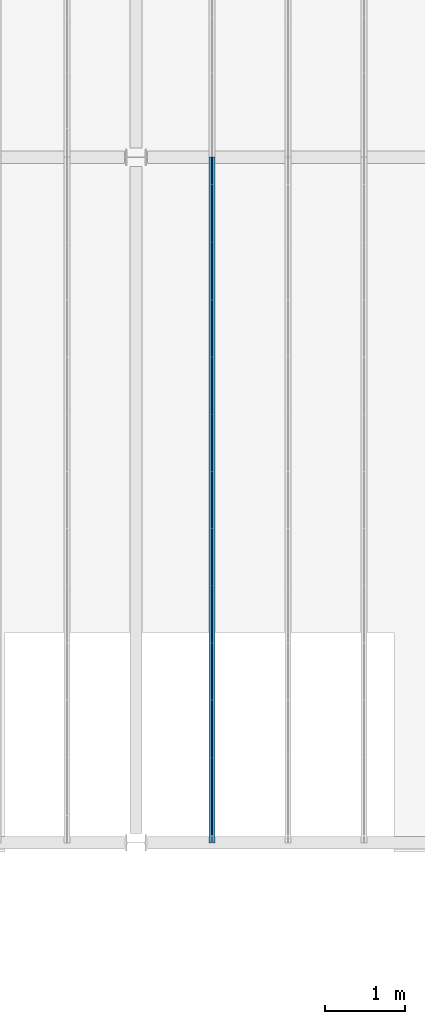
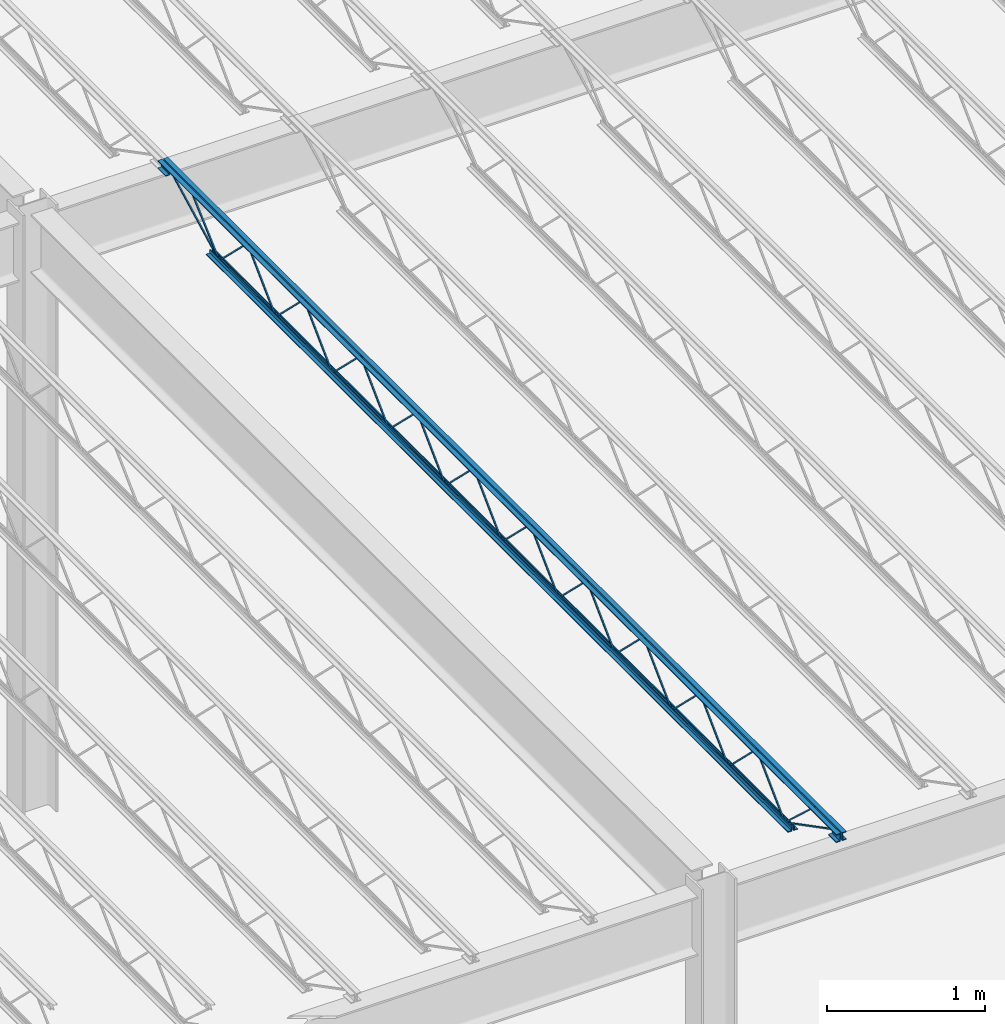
# One storey, part 57 of 119: 1 beam.
"""IFC2X3 building model written with IfcOpenShell, lengths in metres."""

from ifc_helpers import new_model, entity, si_unit, converted_unit, frame, origin, place, context, project, spatial, face_set, surface_model, element, save


model = new_model("IFC2X3")

# Units and contexts
model_context = context("Model", 3, precision=1e-09, world=origin())
plan_context = context("Plan", 3, precision=1e-09, world=origin())
ifc_project = project(units=[si_unit("LENGTHUNIT", "METRE"), si_unit("AREAUNIT", "SQUARE_METRE"), si_unit("VOLUMEUNIT", "CUBIC_METRE"), converted_unit("PLANEANGLEUNIT", "DEGREE", entity("IfcRatioMeasure", 0.01745329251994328), si_unit("PLANEANGLEUNIT", "RADIAN"), dimensions=[0, 0, 0, 0, 0, 0, 0]), si_unit("TIMEUNIT", "SECOND")], contexts=[model_context, plan_context])

# Site, building, storey
site_placement = place(None, origin())
site = spatial("IfcSite", under=ifc_project, at=site_placement, Name="Default", CompositionType="ELEMENT")
building_placement = place(site_placement, origin())
building = spatial("IfcBuilding", under=site, at=building_placement, CompositionType="ELEMENT")
storey_placement = place(building_placement, frame((0.0, 0.0, 4.570000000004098)))
storey = spatial("IfcBuildingStorey", under=building, at=storey_placement, Name="Second Floor", CompositionType="ELEMENT", Elevation=4.570000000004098)

# Beam
beam_placement = place(storey_placement, frame((-13.96672812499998, 10.03999999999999, 4.323999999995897), z_axis=(0.0, 0.0, 1.0), x_axis=(-1.0, 0.0, 0.0)))
element("IfcBeam", 1, at=beam_placement, inside=storey, Name="M_K-Series Bar Joist-Rod Web:14K1:14K1", ObjectType="M_K-Series Bar Joist-Rod Web:14K1", context=model_context, shape_type="SurfaceModel", body=[
    surface_model("IfcFaceBasedSurfaceModel", [(-0.03200000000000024, -2.141200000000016, 0.01110000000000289), (-0.04149999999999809, -2.141200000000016, 0.01110000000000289), (-0.04149999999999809, -2.141200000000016, 0.001600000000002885), (-0.03200000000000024, -2.141200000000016, 0.001600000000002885), (-0.04150000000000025, -2.139961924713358, 0.01110000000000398), (-0.03200000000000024, -2.139961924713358, 0.01110000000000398), (-0.04149999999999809, -2.136088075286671, 0.001600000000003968), (-0.04149999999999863, -1.785138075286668, 0.3449000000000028), (-0.04149999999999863, -1.782661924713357, 0.3449000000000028), (-0.04149999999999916, -1.431711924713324, 0.001600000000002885), (-0.04149999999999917, -1.426600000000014, 0.001600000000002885), (-0.04149999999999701, -1.426600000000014, 0.01110000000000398), (-0.04149999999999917, -1.427838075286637, 0.01110000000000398), (-0.04149999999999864, -1.778788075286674, 0.3544000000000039), (-0.04149999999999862, -1.78901192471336, 0.3544000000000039), (-0.03199999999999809, -2.136088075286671, 0.001600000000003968), (-0.03200000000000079, -1.785138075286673, 0.3449000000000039), (-0.03200000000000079, -1.782661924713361, 0.3449000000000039), (-0.03200000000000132, -1.431711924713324, 0.001600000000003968), (-0.03200000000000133, -1.426600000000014, 0.001600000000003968), (-0.03200000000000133, -1.426600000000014, 0.01110000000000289), (-0.03200000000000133, -1.427838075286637, 0.01110000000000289), (-0.03200000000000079, -1.77878807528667, 0.3544000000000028), (-0.03200000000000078, -1.78901192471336, 0.3544000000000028), (-0.03200000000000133, -2.855800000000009, 0.01110000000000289), (-0.04149999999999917, -2.855800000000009, 0.01110000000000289), (-0.04149999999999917, -2.855800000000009, 0.001600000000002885), (-0.03200000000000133, -2.855800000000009, 0.001600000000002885), (-0.04150000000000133, -2.854561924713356, 0.01110000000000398), (-0.03200000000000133, -2.854561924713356, 0.01110000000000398), (-0.04149999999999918, -2.850688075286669, 0.001600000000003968), (-0.04149999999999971, -2.499738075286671, 0.3449000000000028), (-0.04149999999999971, -2.497261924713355, 0.3449000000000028), (-0.04150000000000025, -2.146311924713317, 0.001600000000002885), (-0.04149999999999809, -2.141200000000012, 0.001600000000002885), (-0.04149999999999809, -2.141200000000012, 0.01110000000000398), (-0.04150000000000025, -2.14243807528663, 0.01110000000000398), (-0.04149999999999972, -2.493388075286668, 0.3544000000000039), (-0.0414999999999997, -2.503611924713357, 0.3544000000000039), (-0.03199999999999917, -2.850688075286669, 0.001600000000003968), (-0.03200000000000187, -2.499738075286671, 0.3449000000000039), (-0.03200000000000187, -2.497261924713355, 0.3449000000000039), (-0.0320000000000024, -2.146311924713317, 0.001600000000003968), (-0.03200000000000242, -2.141200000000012, 0.001600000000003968), (-0.03200000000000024, -2.141200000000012, 0.01110000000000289), (-0.03200000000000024, -2.14243807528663, 0.01110000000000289), (-0.03200000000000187, -2.493388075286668, 0.3544000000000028), (-0.03200000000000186, -2.503611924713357, 0.3544000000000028), (-0.03200000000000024, -3.570400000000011, 0.01110000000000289), (-0.04149999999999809, -3.570400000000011, 0.01110000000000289), (-0.04149999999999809, -3.570400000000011, 0.001600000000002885), (-0.03200000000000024, -3.570400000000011, 0.001600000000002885), (-0.04150000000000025, -3.569161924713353, 0.01110000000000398), (-0.03200000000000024, -3.569161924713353, 0.01110000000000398), (-0.04149999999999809, -3.565288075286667, 0.001600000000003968), (-0.04149999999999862, -3.214338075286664, 0.3449000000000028), (-0.04149999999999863, -3.211861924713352, 0.3449000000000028), (-0.04149999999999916, -2.860911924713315, 0.001600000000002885), (-0.04149999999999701, -2.855800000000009, 0.01110000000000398), (-0.04149999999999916, -2.857038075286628, 0.01110000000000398), (-0.04149999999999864, -3.207988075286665, 0.3544000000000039), (-0.04149999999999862, -3.218211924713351, 0.3544000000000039), (-0.03199999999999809, -3.565288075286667, 0.001600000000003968), (-0.03200000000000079, -3.214338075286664, 0.3449000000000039), (-0.03200000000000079, -3.211861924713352, 0.3449000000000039), (-0.03200000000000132, -2.860911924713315, 0.001600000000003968), (-0.03200000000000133, -2.855800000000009, 0.001600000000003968), (-0.03200000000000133, -2.857038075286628, 0.01110000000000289), (-0.03200000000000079, -3.207988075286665, 0.3544000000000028), (-0.03200000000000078, -3.218211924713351, 0.3544000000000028), (-0.03200000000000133, -4.285000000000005, 0.01110000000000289), (-0.04149999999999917, -4.285000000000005, 0.01110000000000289), (-0.04149999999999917, -4.285000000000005, 0.001600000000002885), (-0.03200000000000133, -4.285000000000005, 0.001600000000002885), (-0.04150000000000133, -4.283761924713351, 0.01110000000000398), (-0.03200000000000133, -4.283761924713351, 0.01110000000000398), (-0.04149999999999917, -4.27988807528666, 0.001600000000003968), (-0.0414999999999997, -3.928938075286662, 0.3449000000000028), (-0.04149999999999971, -3.92646192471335, 0.3449000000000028), (-0.04150000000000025, -3.575511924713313, 0.001600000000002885), (-0.04149999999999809, -3.570400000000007, 0.001600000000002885), (-0.04149999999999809, -3.570400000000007, 0.01110000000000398), (-0.04150000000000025, -3.571638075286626, 0.01110000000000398), (-0.04149999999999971, -3.922588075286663, 0.3544000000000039), (-0.0414999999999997, -3.932811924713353, 0.3544000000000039), (-0.03199999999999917, -4.279888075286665, 0.001600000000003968), (-0.03200000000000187, -3.928938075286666, 0.3449000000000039), (-0.03200000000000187, -3.92646192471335, 0.3449000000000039), (-0.0320000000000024, -3.575511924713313, 0.001600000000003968), (-0.03200000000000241, -3.570400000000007, 0.001600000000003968), (-0.03200000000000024, -3.570400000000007, 0.01110000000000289), (-0.03200000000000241, -3.571638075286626, 0.01110000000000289), (-0.03200000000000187, -3.922588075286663, 0.3544000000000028), (-0.03200000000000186, -3.932811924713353, 0.3544000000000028), (-0.03200000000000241, -4.999600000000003, 0.01110000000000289), (-0.04150000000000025, -4.999600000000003, 0.01110000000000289), (-0.04150000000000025, -4.999600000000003, 0.001600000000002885), (-0.03200000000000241, -4.999600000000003, 0.001600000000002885), (-0.04150000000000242, -4.998361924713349, 0.01110000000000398), (-0.03200000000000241, -4.998361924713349, 0.01110000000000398), (-0.04149999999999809, -4.994488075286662, 0.001600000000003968), (-0.04149999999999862, -4.643538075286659, 0.3449000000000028), (-0.04149999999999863, -4.641061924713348, 0.3449000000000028), (-0.04149999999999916, -4.290111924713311, 0.001600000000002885), (-0.04149999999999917, -4.285000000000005, 0.01110000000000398), (-0.04150000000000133, -4.28623807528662, 0.01110000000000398), (-0.04150000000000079, -4.637188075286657, 0.3544000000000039), (-0.04150000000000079, -4.647411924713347, 0.3544000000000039), (-0.03200000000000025, -4.994488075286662, 0.001600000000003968), (-0.03200000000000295, -4.643538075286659, 0.3449000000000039), (-0.03200000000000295, -4.641061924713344, 0.3449000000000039), (-0.03200000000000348, -4.290111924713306, 0.001600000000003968), (-0.03200000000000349, -4.285000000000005, 0.001600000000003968), (-0.03200000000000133, -4.286238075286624, 0.01110000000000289), (-0.03200000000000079, -4.637188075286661, 0.3544000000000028), (-0.03200000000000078, -4.647411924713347, 0.3544000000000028), (-0.03200000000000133, -5.714200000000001, 0.01110000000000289), (-0.04149999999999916, -5.714200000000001, 0.01110000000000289), (-0.04149999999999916, -5.714200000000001, 0.001600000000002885), (-0.03200000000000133, -5.714200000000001, 0.001600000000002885), (-0.04150000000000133, -5.712961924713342, 0.01110000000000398), (-0.03200000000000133, -5.712961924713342, 0.01110000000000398), (-0.04149999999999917, -5.709088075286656, 0.001600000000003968), (-0.0414999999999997, -5.358138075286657, 0.3449000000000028), (-0.04149999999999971, -5.355661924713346, 0.3449000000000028), (-0.04150000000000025, -5.004711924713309, 0.001600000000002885), (-0.04149999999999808, -4.999599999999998, 0.01110000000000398), (-0.04150000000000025, -5.000838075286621, 0.01110000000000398), (-0.04149999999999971, -5.351788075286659, 0.3544000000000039), (-0.0414999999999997, -5.362011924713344, 0.3544000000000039), (-0.03199999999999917, -5.709088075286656, 0.001600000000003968), (-0.03200000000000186, -5.358138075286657, 0.3449000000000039), (-0.03200000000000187, -5.355661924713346, 0.3449000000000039), (-0.0320000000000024, -5.004711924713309, 0.001600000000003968), (-0.03200000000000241, -4.999599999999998, 0.001600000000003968), (-0.0320000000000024, -5.000838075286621, 0.01110000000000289), (-0.03200000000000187, -5.351788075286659, 0.3544000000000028), (-0.03200000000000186, -5.362011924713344, 0.3544000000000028), (-0.03200000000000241, -6.428799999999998, 0.01110000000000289), (-0.04150000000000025, -6.428799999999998, 0.01110000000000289), (-0.04150000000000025, -6.428799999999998, 0.001600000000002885), (-0.03200000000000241, -6.428799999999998, 0.001600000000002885), (-0.04150000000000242, -6.427561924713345, 0.01110000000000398), (-0.03200000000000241, -6.427561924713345, 0.01110000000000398), (-0.04149999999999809, -6.423688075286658, 0.001600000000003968), (-0.04149999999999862, -6.072738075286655, 0.3449000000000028), (-0.04149999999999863, -6.070261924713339, 0.3449000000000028), (-0.04149999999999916, -5.719311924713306, 0.001600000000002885), (-0.04149999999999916, -5.714200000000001, 0.01110000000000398), (-0.04150000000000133, -5.715438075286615, 0.01110000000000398), (-0.04150000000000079, -6.066388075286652, 0.3544000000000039), (-0.04150000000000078, -6.076611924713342, 0.3544000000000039), (-0.03200000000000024, -6.423688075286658, 0.001600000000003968), (-0.03200000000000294, -6.072738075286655, 0.3449000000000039), (-0.03200000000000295, -6.070261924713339, 0.3449000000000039), (-0.03200000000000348, -5.719311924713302, 0.001600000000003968), (-0.03200000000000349, -5.714200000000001, 0.001600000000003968), (-0.03200000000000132, -5.715438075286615, 0.01110000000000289), (-0.03200000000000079, -6.066388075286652, 0.3544000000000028), (-0.03200000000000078, -6.076611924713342, 0.3544000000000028), (-0.03200000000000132, -7.143399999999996, 0.01110000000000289), (-0.04149999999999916, -7.143399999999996, 0.01110000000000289), (-0.04149999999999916, -7.143399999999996, 0.001600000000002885), (-0.03200000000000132, -7.143399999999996, 0.001600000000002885), (-0.04150000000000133, -7.142161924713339, 0.01110000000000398), (-0.03200000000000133, -7.142161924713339, 0.01110000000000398), (-0.04149999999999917, -7.138288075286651, 0.001600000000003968), (-0.0414999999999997, -6.787338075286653, 0.3449000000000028), (-0.0414999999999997, -6.784861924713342, 0.3449000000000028), (-0.04150000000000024, -6.433911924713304, 0.001600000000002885), (-0.04150000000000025, -6.428799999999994, 0.001600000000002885), (-0.04149999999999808, -6.428799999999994, 0.01110000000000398), (-0.04150000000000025, -6.430038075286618, 0.01110000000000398), (-0.04149999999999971, -6.780988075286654, 0.3544000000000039), (-0.0414999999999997, -6.79121192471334, 0.3544000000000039), (-0.03199999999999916, -7.138288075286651, 0.001600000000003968), (-0.03200000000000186, -6.787338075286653, 0.3449000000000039), (-0.03200000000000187, -6.784861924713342, 0.3449000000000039), (-0.0320000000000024, -6.433911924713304, 0.001600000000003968), (-0.03200000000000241, -6.428799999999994, 0.001600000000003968), (-0.03200000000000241, -6.428799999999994, 0.01110000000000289), (-0.0320000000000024, -6.430038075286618, 0.01110000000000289), (-0.03200000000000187, -6.780988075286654, 0.3544000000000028), (-0.03200000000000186, -6.79121192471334, 0.3544000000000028), (-0.03199999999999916, -1.426600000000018, 0.01109999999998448), (-0.04149999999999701, -1.426600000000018, 0.01109999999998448), (-0.04149999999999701, -1.426600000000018, 0.001599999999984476), (-0.03199999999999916, -1.426600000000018, 0.001599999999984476), (-0.04149999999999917, -1.425361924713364, 0.01109999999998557), (-0.03199999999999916, -1.425361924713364, 0.01109999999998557), (-0.04149999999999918, -1.421488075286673, 0.001599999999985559), (-0.04149999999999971, -1.070538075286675, 0.3448999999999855), (-0.04149999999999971, -1.068061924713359, 0.3448999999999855), (-0.04150000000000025, -0.7171119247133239, 0.001599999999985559), (-0.04149999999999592, -0.712000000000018, 0.001599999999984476), (-0.04149999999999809, -0.712000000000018, 0.01109999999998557), (-0.04150000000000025, -0.7132380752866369, 0.01109999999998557), (-0.04149999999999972, -1.064188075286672, 0.3543999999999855), (-0.0414999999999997, -1.074411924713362, 0.3543999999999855), (-0.03199999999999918, -1.421488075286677, 0.001599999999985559), (-0.0319999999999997, -1.070538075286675, 0.3448999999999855), (-0.0319999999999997, -1.068061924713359, 0.3448999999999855), (-0.03200000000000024, -0.7171119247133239, 0.001599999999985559), (-0.03200000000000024, -0.712000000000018, 0.001599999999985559), (-0.03199999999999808, -0.712000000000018, 0.01109999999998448), (-0.03199999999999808, -0.7132380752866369, 0.01109999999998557), (-0.03199999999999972, -1.064188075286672, 0.3543999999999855), (-0.0319999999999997, -1.074411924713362, 0.3543999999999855), (-0.0320000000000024, -7.857999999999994, 0.01110000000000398), (-0.04150000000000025, -7.857999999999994, 0.01110000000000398), (-0.04150000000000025, -7.857999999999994, 0.001600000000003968), (-0.0320000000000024, -7.857999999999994, 0.001600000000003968), (-0.04150000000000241, -7.85676192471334, 0.01110000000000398), (-0.03200000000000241, -7.85676192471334, 0.01110000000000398), (-0.04149999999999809, -7.852888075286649, 0.001600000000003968), (-0.04149999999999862, -7.501938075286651, 0.3449000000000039), (-0.04149999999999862, -7.499461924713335, 0.3449000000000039), (-0.04149999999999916, -7.148511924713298, 0.001600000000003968), (-0.04149999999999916, -7.143399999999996, 0.001600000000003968), (-0.04149999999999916, -7.143399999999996, 0.01110000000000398), (-0.04150000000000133, -7.14463807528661, 0.01110000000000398), (-0.04150000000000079, -7.495588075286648, 0.3544000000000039), (-0.04150000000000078, -7.505811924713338, 0.3544000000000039), (-0.03200000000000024, -7.852888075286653, 0.001600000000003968), (-0.03200000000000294, -7.501938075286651, 0.3449000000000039), (-0.03200000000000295, -7.499461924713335, 0.3449000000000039), (-0.03200000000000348, -7.148511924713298, 0.001600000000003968), (-0.03200000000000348, -7.143399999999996, 0.001600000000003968), (-0.03200000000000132, -7.143399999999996, 0.01110000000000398), (-0.03200000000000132, -7.14463807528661, 0.01110000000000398), (-0.03200000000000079, -7.495588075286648, 0.3544000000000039), (-0.03200000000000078, -7.505811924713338, 0.3544000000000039), (-0.04150000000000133, 0.0, 0.3559999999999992), (-0.07350000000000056, 0.0, 0.3559999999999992), (-0.07350000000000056, 0.0, 0.3494999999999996), (-0.04800000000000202, 0.0, 0.3494999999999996), (-0.04800000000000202, 0.0, 0.3239999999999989), (-0.04150000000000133, 0.0, 0.3239999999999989), (-0.03200000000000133, 0.0, 0.3559999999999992), (-0.03200000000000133, 0.0, 0.3239999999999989), (-0.02550000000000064, 0.0, 0.3239999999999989), (-0.02550000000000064, 0.0, 0.3494999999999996), (0.0, 0.0, 0.3494999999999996), (0.0, 0.0, 0.3559999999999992), (-0.04150000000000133, -8.569999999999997, 0.3559999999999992), (-0.07350000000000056, -8.569999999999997, 0.3559999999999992), (-0.07350000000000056, -8.569999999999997, 0.3494999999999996), (-0.04800000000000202, -8.569999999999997, 0.3494999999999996), (-0.04800000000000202, -8.569999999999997, 0.3239999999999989), (-0.04150000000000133, -8.569999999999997, 0.3239999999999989), (-0.03200000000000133, -8.569999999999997, 0.3559999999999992), (-0.03200000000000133, -8.569999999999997, 0.3239999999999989), (-0.02550000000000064, -8.569999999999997, 0.3239999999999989), (-0.02550000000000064, -8.569999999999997, 0.3494999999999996), (0.0, -8.569999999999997, 0.3494999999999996), (0.0, -8.569999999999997, 0.3559999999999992), (-0.03200000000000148, -8.470000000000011, 0.2924999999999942), (0.0, -8.470000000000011, 0.2924999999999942), (0.0, -8.470000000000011, 0.2989999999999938), (-0.02550000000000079, -8.470000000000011, 0.2989999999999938), (-0.02550000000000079, -8.470000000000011, 0.3239999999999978), (-0.03200000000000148, -8.470000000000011, 0.3239999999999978), (-0.0735000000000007, -8.470000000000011, 0.2924999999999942), (-0.04150000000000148, -8.470000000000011, 0.2924999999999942), (-0.04150000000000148, -8.470000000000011, 0.3239999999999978), (-0.04800000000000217, -8.470000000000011, 0.3239999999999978), (-0.04800000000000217, -8.470000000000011, 0.2989999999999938), (-0.0735000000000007, -8.470000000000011, 0.2989999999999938), (-0.03200000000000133, -8.569999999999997, 0.2924999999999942), (0.0, -8.569999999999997, 0.2924999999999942), (0.0, -8.569999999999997, 0.2989999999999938), (-0.02550000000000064, -8.569999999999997, 0.2989999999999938), (-0.02550000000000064, -8.569999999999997, 0.3239999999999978), (-0.03200000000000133, -8.569999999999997, 0.3239999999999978), (-0.07350000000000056, -8.569999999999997, 0.2924999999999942), (-0.04150000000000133, -8.569999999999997, 0.2924999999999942), (-0.04150000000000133, -8.569999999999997, 0.3239999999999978), (-0.04800000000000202, -8.569999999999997, 0.3239999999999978), (-0.04800000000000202, -8.569999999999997, 0.2989999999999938), (-0.07350000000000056, -8.569999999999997, 0.2989999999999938), (-0.04150000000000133, 0.0, 0.2924999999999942), (-0.04150000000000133, 0.0, 0.3239999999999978), (-0.04799999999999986, 0.0, 0.3239999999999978), (-0.04799999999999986, 0.0, 0.2989999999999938), (-0.07350000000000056, 0.0, 0.2989999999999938), (-0.07350000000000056, 0.0, 0.2924999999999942), (-0.03200000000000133, 0.0, 0.2924999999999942), (0.0, 0.0, 0.2924999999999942), (0.0, 0.0, 0.2989999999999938), (-0.02550000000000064, 0.0, 0.2989999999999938), (-0.02550000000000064, 0.0, 0.3239999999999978), (-0.03200000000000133, 0.0, 0.3239999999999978), (-0.04150000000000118, -0.09999999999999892, 0.2924999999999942), (-0.04150000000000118, -0.09999999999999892, 0.3239999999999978), (-0.0479999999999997, -0.09999999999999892, 0.3239999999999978), (-0.0479999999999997, -0.09999999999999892, 0.2989999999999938), (-0.07350000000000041, -0.09999999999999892, 0.2989999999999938), (-0.07350000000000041, -0.09999999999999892, 0.2924999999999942), (-0.03200000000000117, -0.09999999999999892, 0.2924999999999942), (0.0, -0.09999999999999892, 0.2924999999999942), (0.0, -0.09999999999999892, 0.2989999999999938), (-0.02550000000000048, -0.09999999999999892, 0.2989999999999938), (-0.02550000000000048, -0.09999999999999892, 0.3239999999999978), (-0.03200000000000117, -0.09999999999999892, 0.3239999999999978), (-0.04150000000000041, -0.6119999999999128, 0.0), (-0.04150000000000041, -0.6119999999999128, 0.03199999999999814), (-0.04800000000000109, -0.6119999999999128, 0.03199999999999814), (-0.04800000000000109, -0.6119999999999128, 0.006499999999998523), (-0.07349999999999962, -0.6119999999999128, 0.006499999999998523), (-0.07349999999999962, -0.6119999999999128, 0.0), (-0.0320000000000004, -0.6119999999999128, 0.0), (0.0, -0.6119999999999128, 0.0), (0.0, -0.6119999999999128, 0.006499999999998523), (-0.02549999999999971, -0.6119999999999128, 0.006499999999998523), (-0.02549999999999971, -0.6119999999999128, 0.03199999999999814), (-0.0320000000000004, -0.6119999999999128, 0.03199999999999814), (-0.04150000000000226, -7.957999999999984, 0.0), (-0.04150000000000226, -7.957999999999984, 0.03199999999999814), (-0.04800000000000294, -7.957999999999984, 0.03199999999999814), (-0.04800000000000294, -7.957999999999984, 0.006499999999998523), (-0.07350000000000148, -7.957999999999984, 0.006499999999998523), (-0.07350000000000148, -7.957999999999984, 0.0), (-0.03200000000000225, -7.957999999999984, 0.0), (0.0, -7.957999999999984, 0.0), (0.0, -7.957999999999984, 0.006499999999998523), (-0.02550000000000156, -7.957999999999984, 0.006499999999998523), (-0.02550000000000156, -7.957999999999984, 0.03199999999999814), (-0.03200000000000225, -7.957999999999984, 0.03199999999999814), (-0.03200000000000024, -7.855811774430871, 0.01056594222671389), (-0.04150000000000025, -7.855811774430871, 0.01056594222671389), (-0.04150000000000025, -7.860188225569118, 0.002134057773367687), (-0.0320000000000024, -7.860188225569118, 0.00213405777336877), (-0.03199999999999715, -8.468840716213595, 0.3287499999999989), (-0.031999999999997, -8.569999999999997, 0.3287499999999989), (-0.03199999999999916, -8.569999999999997, 0.3192499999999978), (-0.03199999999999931, -8.471159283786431, 0.3192499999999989), (-0.04149999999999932, -8.471159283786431, 0.3192499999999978), (-0.04149999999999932, -8.468840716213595, 0.3287499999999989), (-0.04149999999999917, -8.569999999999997, 0.3287499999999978), (-0.04149999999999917, -8.569999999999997, 0.3192499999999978), (-0.03200000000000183, -8.235257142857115, 0.3417000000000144), (-0.04149999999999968, -8.235257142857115, 0.3417000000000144), (-0.04149999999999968, -8.235257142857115, 0.3322000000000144), (-0.03200000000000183, -8.235257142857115, 0.3322000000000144), (-0.04150000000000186, -8.220724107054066, 0.3417000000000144), (-0.03200000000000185, -8.220724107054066, 0.3417000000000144), (-0.04149999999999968, -8.224390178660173, 0.3322000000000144), (-0.04150000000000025, -7.861190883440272, 0.002831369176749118), (-0.04150000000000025, -7.854809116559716, 0.009868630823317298), (-0.03199999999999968, -8.224390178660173, 0.3322000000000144), (-0.0320000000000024, -7.861190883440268, 0.002831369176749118), (-0.03200000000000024, -7.854809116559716, 0.009868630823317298), (-0.03199999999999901, -0.09781177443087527, 0.3197840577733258), (-0.03200000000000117, -0.1021882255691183, 0.328215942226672), (-0.04150000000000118, -0.1021882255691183, 0.328215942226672), (-0.04149999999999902, -0.09781177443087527, 0.3197840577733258), (-0.03199999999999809, -0.7098117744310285, 0.002134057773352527), (-0.03200000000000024, -0.7141882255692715, 0.01056594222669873), (-0.04150000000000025, -0.7141882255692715, 0.01056594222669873), (-0.04149999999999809, -0.7098117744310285, 0.002134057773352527), (-0.03199999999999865, -0.3369634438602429, 0.3461600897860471), (-0.03200000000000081, -0.3434079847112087, 0.3531399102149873), (-0.04150000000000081, -0.3434079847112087, 0.3531399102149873), (-0.04149999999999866, -0.3369634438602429, 0.3461600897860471), (-0.03199999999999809, -0.7087777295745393, 0.00286008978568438), (-0.03200000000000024, -0.7152222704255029, 0.009839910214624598), (-0.04150000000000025, -0.7152222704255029, 0.009839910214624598), (-0.04149999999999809, -0.7087777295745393, 0.00286008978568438)], [face_set([[[0, 1, 2, 3]], [[1, 4, 5, 0]], [[2, 6, 7, 8, 9, 10, 11, 12, 13, 14, 4, 1]], [[3, 2, 6, 15]], [[0, 3, 15, 16, 17, 18, 19, 20, 21, 22, 23, 5]], [[4, 5, 23, 14]], [[15, 16, 7, 6]], [[14, 13, 22, 23]], [[16, 7, 8, 17]], [[13, 12, 21, 22]], [[17, 8, 9, 18]], [[20, 11, 10, 19]], [[12, 11, 20, 21]], [[18, 9, 10, 19]]]), face_set([[[24, 25, 26, 27]], [[25, 28, 29, 24]], [[26, 30, 31, 32, 33, 34, 35, 36, 37, 38, 28, 25]], [[27, 26, 30, 39]], [[24, 27, 39, 40, 41, 42, 43, 44, 45, 46, 47, 29]], [[28, 29, 47, 38]], [[39, 40, 31, 30]], [[38, 37, 46, 47]], [[40, 31, 32, 41]], [[37, 36, 45, 46]], [[41, 32, 33, 42]], [[44, 35, 34, 43]], [[36, 35, 44, 45]], [[42, 33, 34, 43]]]), face_set([[[48, 49, 50, 51]], [[49, 52, 53, 48]], [[50, 54, 55, 56, 57, 26, 58, 59, 60, 61, 52, 49]], [[51, 50, 54, 62]], [[48, 51, 62, 63, 64, 65, 66, 24, 67, 68, 69, 53]], [[52, 53, 69, 61]], [[62, 63, 55, 54]], [[61, 60, 68, 69]], [[63, 55, 56, 64]], [[60, 59, 67, 68]], [[64, 56, 57, 65]], [[24, 58, 26, 66]], [[59, 58, 24, 67]], [[65, 57, 26, 66]]]), face_set([[[70, 71, 72, 73]], [[71, 74, 75, 70]], [[72, 76, 77, 78, 79, 80, 81, 82, 83, 84, 74, 71]], [[73, 72, 76, 85]], [[70, 73, 85, 86, 87, 88, 89, 90, 91, 92, 93, 75]], [[74, 75, 93, 84]], [[85, 86, 77, 76]], [[84, 83, 92, 93]], [[86, 77, 78, 87]], [[83, 82, 91, 92]], [[87, 78, 79, 88]], [[90, 81, 80, 89]], [[82, 81, 90, 91]], [[88, 79, 80, 89]]]), face_set([[[94, 95, 96, 97]], [[95, 98, 99, 94]], [[96, 100, 101, 102, 103, 72, 104, 105, 106, 107, 98, 95]], [[97, 96, 100, 108]], [[94, 97, 108, 109, 110, 111, 112, 70, 113, 114, 115, 99]], [[98, 99, 115, 107]], [[108, 109, 101, 100]], [[107, 106, 114, 115]], [[109, 101, 102, 110]], [[106, 105, 113, 114]], [[110, 102, 103, 111]], [[70, 104, 72, 112]], [[105, 104, 70, 113]], [[111, 103, 72, 112]]]), face_set([[[116, 117, 118, 119]], [[117, 120, 121, 116]], [[118, 122, 123, 124, 125, 96, 126, 127, 128, 129, 120, 117]], [[119, 118, 122, 130]], [[116, 119, 130, 131, 132, 133, 134, 94, 135, 136, 137, 121]], [[120, 121, 137, 129]], [[130, 131, 123, 122]], [[129, 128, 136, 137]], [[131, 123, 124, 132]], [[128, 127, 135, 136]], [[132, 124, 125, 133]], [[94, 126, 96, 134]], [[127, 126, 94, 135]], [[133, 125, 96, 134]]]), face_set([[[138, 139, 140, 141]], [[139, 142, 143, 138]], [[140, 144, 145, 146, 147, 118, 148, 149, 150, 151, 142, 139]], [[141, 140, 144, 152]], [[138, 141, 152, 153, 154, 155, 156, 116, 157, 158, 159, 143]], [[142, 143, 159, 151]], [[152, 153, 145, 144]], [[151, 150, 158, 159]], [[153, 145, 146, 154]], [[150, 149, 157, 158]], [[154, 146, 147, 155]], [[116, 148, 118, 156]], [[149, 148, 116, 157]], [[155, 147, 118, 156]]]), face_set([[[160, 161, 162, 163]], [[161, 164, 165, 160]], [[162, 166, 167, 168, 169, 170, 171, 172, 173, 174, 164, 161]], [[163, 162, 166, 175]], [[160, 163, 175, 176, 177, 178, 179, 180, 181, 182, 183, 165]], [[164, 165, 183, 174]], [[175, 176, 167, 166]], [[174, 173, 182, 183]], [[176, 167, 168, 177]], [[173, 172, 181, 182]], [[177, 168, 169, 178]], [[180, 171, 170, 179]], [[172, 171, 180, 181]], [[178, 169, 170, 179]]]), face_set([[[184, 185, 186, 187]], [[185, 188, 189, 184]], [[186, 190, 191, 192, 193, 194, 195, 196, 197, 198, 188, 185]], [[187, 186, 190, 199]], [[184, 187, 199, 200, 201, 202, 203, 204, 205, 206, 207, 189]], [[188, 189, 207, 198]], [[199, 200, 191, 190]], [[198, 197, 206, 207]], [[200, 191, 192, 201]], [[197, 196, 205, 206]], [[201, 192, 193, 202]], [[204, 195, 194, 203]], [[196, 195, 204, 205]], [[202, 193, 194, 203]]]), face_set([[[208, 209, 210, 211]], [[209, 212, 213, 208]], [[210, 214, 215, 216, 217, 218, 219, 220, 221, 222, 212, 209]], [[211, 210, 214, 223]], [[208, 211, 223, 224, 225, 226, 227, 228, 229, 230, 231, 213]], [[212, 213, 231, 222]], [[223, 224, 215, 214]], [[222, 221, 230, 231]], [[224, 215, 216, 225]], [[221, 220, 229, 230]], [[225, 216, 217, 226]], [[228, 219, 218, 227]], [[220, 219, 228, 229]], [[226, 217, 218, 227]]]), face_set([[[232, 233, 234, 235, 236, 237]], [[238, 239, 240, 241, 242, 243]], [[244, 245, 246, 247, 248, 249]], [[250, 251, 252, 253, 254, 255]], [[237, 232, 244, 249]], [[236, 237, 249, 248]], [[235, 247, 248, 236]], [[234, 235, 247, 246]], [[233, 245, 246, 234]], [[232, 244, 245, 233]], [[243, 255, 250, 238]], [[242, 243, 255, 254]], [[241, 242, 254, 253]], [[240, 241, 253, 252]], [[239, 240, 252, 251]], [[238, 250, 251, 239]]]), face_set([[[256, 257, 258, 259, 260, 261]], [[262, 263, 264, 265, 266, 267]], [[268, 269, 270, 271, 272, 273]], [[274, 275, 276, 277, 278, 279]], [[261, 273, 268, 256]], [[260, 272, 273, 261]], [[259, 260, 272, 271]], [[258, 270, 271, 259]], [[257, 258, 270, 269]], [[256, 257, 269, 268]], [[267, 279, 274, 262]], [[266, 278, 279, 267]], [[265, 277, 278, 266]], [[264, 276, 277, 265]], [[263, 264, 276, 275]], [[262, 263, 275, 274]]]), face_set([[[280, 281, 282, 283, 284, 285]], [[286, 287, 288, 289, 290, 291]], [[292, 293, 294, 295, 296, 297]], [[298, 299, 300, 301, 302, 303]], [[285, 280, 292, 297]], [[284, 296, 297, 285]], [[283, 295, 296, 284]], [[282, 294, 295, 283]], [[281, 293, 294, 282]], [[280, 281, 293, 292]], [[291, 303, 298, 286]], [[290, 302, 303, 291]], [[289, 290, 302, 301]], [[288, 300, 301, 289]], [[287, 288, 300, 299]], [[286, 287, 299, 298]]]), face_set([[[304, 305, 306, 307, 308, 309]], [[310, 311, 312, 313, 314, 315]], [[316, 317, 318, 319, 320, 321]], [[322, 323, 324, 325, 326, 327]], [[309, 304, 316, 321]], [[308, 320, 321, 309]], [[307, 319, 320, 308]], [[306, 318, 319, 307]], [[305, 317, 318, 306]], [[304, 305, 317, 316]], [[315, 327, 322, 310]], [[314, 326, 327, 315]], [[313, 314, 326, 325]], [[312, 324, 325, 313]], [[311, 312, 324, 323]], [[310, 311, 323, 322]]]), face_set([[[328, 329, 330, 331]], [[331, 328, 332, 333, 334, 335]], [[330, 331, 335, 336]], [[329, 337, 338, 339, 336, 330]], [[328, 332, 337, 329]], [[333, 338, 339, 334]], [[336, 335, 334, 339]], [[332, 333, 338, 337]]]), face_set([[[340, 341, 342, 343]], [[341, 344, 345, 340]], [[342, 346, 347, 348, 344, 341]], [[343, 342, 346, 349]], [[340, 343, 349, 350, 351, 345]], [[351, 348, 347, 350]], [[344, 348, 351, 345]], [[349, 346, 347, 350]]]), face_set([[[352, 353, 354, 355]], [[356, 357, 358, 359]], [[355, 352, 356, 359]], [[354, 358, 359, 355]], [[353, 357, 358, 354]], [[352, 353, 357, 356]]]), face_set([[[360, 361, 362, 363]], [[364, 365, 366, 367]], [[363, 367, 364, 360]], [[362, 366, 367, 363]], [[361, 362, 366, 365]], [[360, 361, 365, 364]]])]),
])

save(model, "model.ifc")
